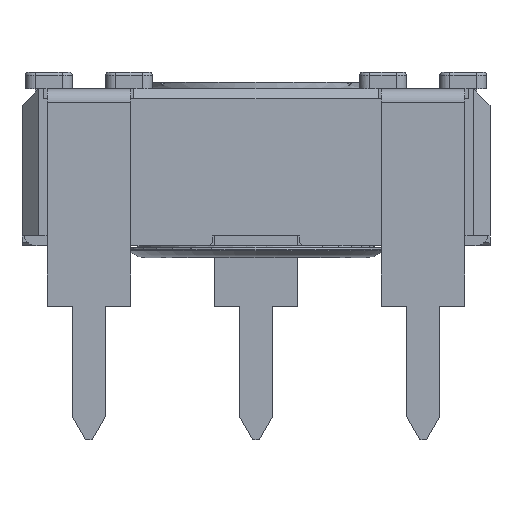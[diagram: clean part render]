
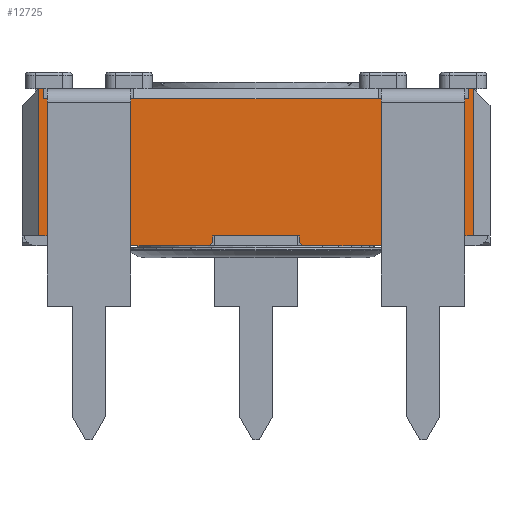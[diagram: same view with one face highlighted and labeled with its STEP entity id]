
A CAD part, front view. The second image highlights one B-rep face of the part: STEP entity #12725.
In plain terms, the highlighted planar face has unit normal (0, -1, 0).
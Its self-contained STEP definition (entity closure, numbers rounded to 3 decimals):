
#410=PLANE('',#13580);
#1001=FACE_OUTER_BOUND('',#1681,.T.);
#1681=EDGE_LOOP('',(#10287,#10288,#10289,#10290,#10291,#10292,#10293,#10294,
#10295,#10296,#10297,#10298,#10299,#10300,#10301,#10302,#10303,#10304,#10305,
#10306,#10307,#10308,#10309,#10310,#10311));
#2162=LINE('',#17936,#3632);
#2170=LINE('',#17956,#3640);
#2194=LINE('',#18003,#3664);
#2195=LINE('',#18005,#3665);
#2200=LINE('',#18016,#3670);
#2224=LINE('',#18063,#3694);
#2412=LINE('',#18618,#3882);
#2425=LINE('',#18642,#3895);
#2572=LINE('',#19094,#4042);
#2777=LINE('',#19617,#4247);
#2782=LINE('',#19627,#4252);
#2787=LINE('',#19637,#4257);
#2802=LINE('',#19663,#4272);
#2909=LINE('',#19980,#4379);
#2917=LINE('',#19998,#4387);
#2923=LINE('',#20006,#4393);
#2924=LINE('',#20009,#4394);
#2925=LINE('',#20011,#4395);
#2926=LINE('',#20013,#4396);
#2927=LINE('',#20014,#4397);
#2928=LINE('',#20015,#4398);
#2929=LINE('',#20016,#4399);
#2930=LINE('',#20017,#4400);
#2931=LINE('',#20018,#4401);
#2932=LINE('',#20019,#4402);
#3632=VECTOR('',#14339,10.);
#3640=VECTOR('',#14361,10.);
#3664=VECTOR('',#14387,10.);
#3665=VECTOR('',#14390,10.);
#3670=VECTOR('',#14405,10.);
#3694=VECTOR('',#14431,10.);
#3882=VECTOR('',#14993,10.);
#3895=VECTOR('',#15020,10.);
#4042=VECTOR('',#15403,10.);
#4247=VECTOR('',#15750,10.);
#4252=VECTOR('',#15755,10.);
#4257=VECTOR('',#15760,10.);
#4272=VECTOR('',#15777,10.);
#4379=VECTOR('',#16032,10.);
#4387=VECTOR('',#16044,10.);
#4393=VECTOR('',#16054,10.);
#4394=VECTOR('',#16057,10.);
#4395=VECTOR('',#16058,10.);
#4396=VECTOR('',#16059,10.);
#4397=VECTOR('',#16060,10.);
#4398=VECTOR('',#16061,10.);
#4399=VECTOR('',#16062,10.);
#4400=VECTOR('',#16063,10.);
#4401=VECTOR('',#16064,10.);
#4402=VECTOR('',#16065,10.);
#5339=VERTEX_POINT('',#17791);
#5345=VERTEX_POINT('',#17808);
#5355=VERTEX_POINT('',#17830);
#5402=VERTEX_POINT('',#17935);
#5407=VERTEX_POINT('',#17955);
#5429=VERTEX_POINT('',#18001);
#5430=VERTEX_POINT('',#18015);
#5452=VERTEX_POINT('',#18061);
#5631=VERTEX_POINT('',#18615);
#5632=VERTEX_POINT('',#18617);
#5635=VERTEX_POINT('',#18639);
#5636=VERTEX_POINT('',#18641);
#5762=VERTEX_POINT('',#19090);
#5914=VERTEX_POINT('',#19616);
#5918=VERTEX_POINT('',#19624);
#5919=VERTEX_POINT('',#19626);
#5923=VERTEX_POINT('',#19634);
#5924=VERTEX_POINT('',#19636);
#6001=VERTEX_POINT('',#19978);
#6002=VERTEX_POINT('',#19979);
#6009=VERTEX_POINT('',#19996);
#6010=VERTEX_POINT('',#19997);
#6011=VERTEX_POINT('',#20008);
#6012=VERTEX_POINT('',#20010);
#6013=VERTEX_POINT('',#20012);
#6632=EDGE_CURVE('',#5402,#5339,#2162,.T.);
#6642=EDGE_CURVE('',#5407,#5402,#2170,.T.);
#6666=EDGE_CURVE('',#5339,#5429,#2194,.T.);
#6667=EDGE_CURVE('',#5345,#5355,#2195,.T.);
#6672=EDGE_CURVE('',#5430,#5345,#2200,.T.);
#6696=EDGE_CURVE('',#5355,#5452,#2224,.T.);
#6975=EDGE_CURVE('',#5632,#5631,#2412,.T.);
#6988=EDGE_CURVE('',#5636,#5635,#2425,.T.);
#7184=EDGE_CURVE('',#5636,#5762,#2572,.T.);
#7410=EDGE_CURVE('',#5914,#5762,#2777,.T.);
#7415=EDGE_CURVE('',#5919,#5918,#2782,.T.);
#7420=EDGE_CURVE('',#5924,#5923,#2787,.T.);
#7435=EDGE_CURVE('',#5924,#5631,#2802,.T.);
#7561=EDGE_CURVE('',#6001,#6002,#2909,.T.);
#7569=EDGE_CURVE('',#6009,#6010,#2917,.T.);
#7575=EDGE_CURVE('',#5919,#6001,#2923,.T.);
#7576=EDGE_CURVE('',#5918,#6011,#2924,.T.);
#7577=EDGE_CURVE('',#6012,#6011,#2925,.T.);
#7578=EDGE_CURVE('',#6012,#6013,#2926,.T.);
#7579=EDGE_CURVE('',#6013,#5914,#2927,.T.);
#7580=EDGE_CURVE('',#5635,#5430,#2928,.T.);
#7581=EDGE_CURVE('',#5407,#5452,#2929,.T.);
#7582=EDGE_CURVE('',#5429,#5632,#2930,.T.);
#7583=EDGE_CURVE('',#5923,#6010,#2931,.T.);
#7584=EDGE_CURVE('',#6009,#6002,#2932,.T.);
#10287=ORIENTED_EDGE('',*,*,#7561,.F.);
#10288=ORIENTED_EDGE('',*,*,#7575,.F.);
#10289=ORIENTED_EDGE('',*,*,#7415,.T.);
#10290=ORIENTED_EDGE('',*,*,#7576,.T.);
#10291=ORIENTED_EDGE('',*,*,#7577,.F.);
#10292=ORIENTED_EDGE('',*,*,#7578,.T.);
#10293=ORIENTED_EDGE('',*,*,#7579,.T.);
#10294=ORIENTED_EDGE('',*,*,#7410,.T.);
#10295=ORIENTED_EDGE('',*,*,#7184,.F.);
#10296=ORIENTED_EDGE('',*,*,#6988,.T.);
#10297=ORIENTED_EDGE('',*,*,#7580,.T.);
#10298=ORIENTED_EDGE('',*,*,#6672,.T.);
#10299=ORIENTED_EDGE('',*,*,#6667,.T.);
#10300=ORIENTED_EDGE('',*,*,#6696,.T.);
#10301=ORIENTED_EDGE('',*,*,#7581,.F.);
#10302=ORIENTED_EDGE('',*,*,#6642,.T.);
#10303=ORIENTED_EDGE('',*,*,#6632,.T.);
#10304=ORIENTED_EDGE('',*,*,#6666,.T.);
#10305=ORIENTED_EDGE('',*,*,#7582,.T.);
#10306=ORIENTED_EDGE('',*,*,#6975,.T.);
#10307=ORIENTED_EDGE('',*,*,#7435,.F.);
#10308=ORIENTED_EDGE('',*,*,#7420,.T.);
#10309=ORIENTED_EDGE('',*,*,#7583,.T.);
#10310=ORIENTED_EDGE('',*,*,#7569,.F.);
#10311=ORIENTED_EDGE('',*,*,#7584,.T.);
#12725=ADVANCED_FACE('',(#1001),#410,.T.);
#13580=AXIS2_PLACEMENT_3D('',#20007,#16055,#16056);
#14339=DIRECTION('',(-1.,0.,0.));
#14361=DIRECTION('',(-1.,0.,0.));
#14387=DIRECTION('',(-1.,0.,0.));
#14390=DIRECTION('',(-1.,0.,0.));
#14405=DIRECTION('',(-1.,0.,0.));
#14431=DIRECTION('',(-1.,0.,0.));
#14993=DIRECTION('',(-1.,0.,0.));
#15020=DIRECTION('',(-1.,0.,0.));
#15403=DIRECTION('',(0.,0.,-1.));
#15750=DIRECTION('',(1.,0.,0.));
#15755=DIRECTION('',(1.,0.,0.));
#15760=DIRECTION('',(1.,0.,0.));
#15777=DIRECTION('',(0.,0.,1.));
#16032=DIRECTION('',(-0.707,0.,-0.707));
#16044=DIRECTION('',(-0.707,0.,0.707));
#16054=DIRECTION('',(0.,0.,-1.));
#16055=DIRECTION('center_axis',(0.,-1.,0.));
#16056=DIRECTION('ref_axis',(0.,0.,-1.));
#16057=DIRECTION('',(0.,0.,-1.));
#16058=DIRECTION('',(-0.707,0.,0.707));
#16059=DIRECTION('',(1.,0.,0.));
#16060=DIRECTION('',(0.,0.,1.));
#16061=DIRECTION('',(0.,0.,-1.));
#16062=DIRECTION('',(1.,0.,0.));
#16063=DIRECTION('',(0.,0.,1.));
#16064=DIRECTION('',(0.,0.,-1.));
#16065=DIRECTION('',(1.,0.,0.));
#17791=CARTESIAN_POINT('',(-13.717,-9.898,4.1));
#17808=CARTESIAN_POINT('',(-1.217,-9.898,4.1));
#17830=CARTESIAN_POINT('',(-3.717,-9.898,4.1));
#17935=CARTESIAN_POINT('',(-11.217,-9.898,4.1));
#17936=CARTESIAN_POINT('',(-3.944,-9.898,4.1));
#17955=CARTESIAN_POINT('',(-11.117,-9.898,4.1));
#17956=CARTESIAN_POINT('',(-3.944,-9.898,4.1));
#18001=CARTESIAN_POINT('',(-13.817,-9.898,4.1));
#18003=CARTESIAN_POINT('',(-3.944,-9.898,4.1));
#18005=CARTESIAN_POINT('',(-1.862,-9.898,4.1));
#18015=CARTESIAN_POINT('',(-1.117,-9.898,4.1));
#18016=CARTESIAN_POINT('',(-1.862,-9.898,4.1));
#18061=CARTESIAN_POINT('',(-3.817,-9.898,4.1));
#18063=CARTESIAN_POINT('',(-1.862,-9.898,4.1));
#18615=CARTESIAN_POINT('',(-13.967,-9.898,4.4));
#18617=CARTESIAN_POINT('',(-13.817,-9.898,4.4));
#18618=CARTESIAN_POINT('',(-14.467,-9.898,4.4));
#18639=CARTESIAN_POINT('',(-1.117,-9.898,4.4));
#18641=CARTESIAN_POINT('',(-0.967,-9.898,4.4));
#18642=CARTESIAN_POINT('',(-14.467,-9.898,4.4));
#19090=CARTESIAN_POINT('',(-0.967,-9.898,0.));
#19094=CARTESIAN_POINT('',(-0.967,-9.898,0.));
#19616=CARTESIAN_POINT('',(-1.467,-9.898,0.));
#19617=CARTESIAN_POINT('',(-0.646,-9.898,0.));
#19624=CARTESIAN_POINT('',(-6.167,-9.898,0.));
#19626=CARTESIAN_POINT('',(-8.767,-9.898,0.));
#19627=CARTESIAN_POINT('',(-14.467,-9.898,0.));
#19634=CARTESIAN_POINT('',(-13.467,-9.898,0.));
#19636=CARTESIAN_POINT('',(-13.967,-9.898,0.));
#19637=CARTESIAN_POINT('',(-7.245,-9.898,0.));
#19663=CARTESIAN_POINT('',(-13.967,-9.898,0.));
#19978=CARTESIAN_POINT('',(-8.767,-9.898,-0.2));
#19979=CARTESIAN_POINT('',(-8.867,-9.898,-0.3));
#19980=CARTESIAN_POINT('',(-6.667,-9.898,1.9));
#19996=CARTESIAN_POINT('',(-13.367,-9.898,-0.3));
#19997=CARTESIAN_POINT('',(-13.467,-9.898,-0.2));
#19998=CARTESIAN_POINT('',(-10.242,-9.898,-3.425));
#20006=CARTESIAN_POINT('',(-8.767,-9.898,0.));
#20007=CARTESIAN_POINT('Origin',(-0.467,-9.898,0.));
#20008=CARTESIAN_POINT('',(-6.167,-9.898,-0.2));
#20009=CARTESIAN_POINT('',(-6.167,-9.898,0.));
#20010=CARTESIAN_POINT('',(-6.067,-9.898,-0.3));
#20011=CARTESIAN_POINT('',(-4.767,-9.898,-1.6));
#20012=CARTESIAN_POINT('',(-1.467,-9.898,-0.3));
#20013=CARTESIAN_POINT('',(-0.467,-9.898,-0.3));
#20014=CARTESIAN_POINT('',(-1.467,-9.898,-0.15));
#20015=CARTESIAN_POINT('',(-1.117,-9.898,2.2));
#20016=CARTESIAN_POINT('',(-3.967,-9.898,4.1));
#20017=CARTESIAN_POINT('',(-13.817,-9.898,2.2));
#20018=CARTESIAN_POINT('',(-13.467,-9.898,-0.15));
#20019=CARTESIAN_POINT('',(-0.467,-9.898,-0.3));
